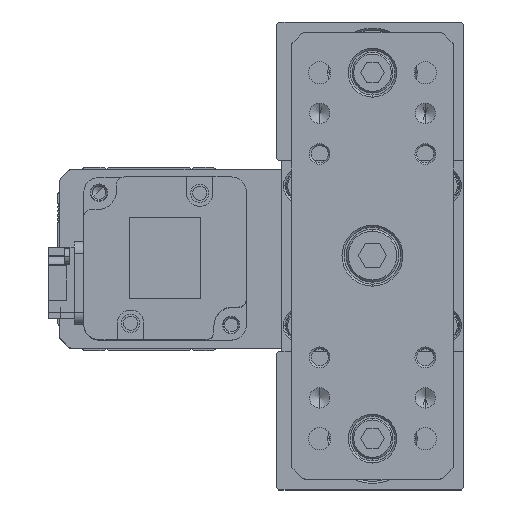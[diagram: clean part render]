
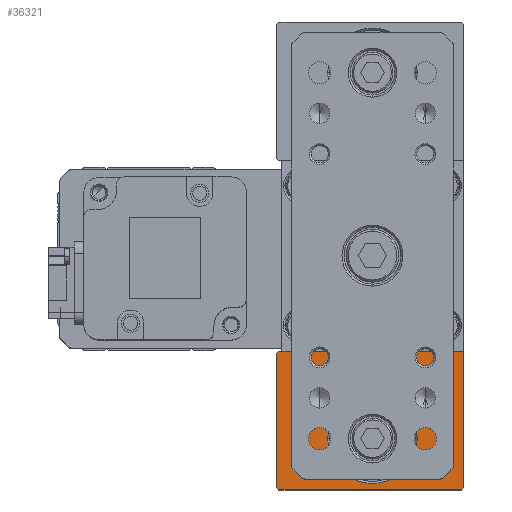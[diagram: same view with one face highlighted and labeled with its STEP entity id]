
A CAD part, top view. The second image highlights one B-rep face of the part: STEP entity #36321.
In plain terms, the highlighted planar face has unit normal (0, 0, 1).
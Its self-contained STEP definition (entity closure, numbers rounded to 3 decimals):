
#1166 = VERTEX_POINT ( 'NONE', #19638 ) ;
#1481 = AXIS2_PLACEMENT_3D ( 'NONE', #34870, #23227, #5586 ) ;
#1750 = EDGE_LOOP ( 'NONE', ( #36621, #31381, #17519, #20660, #35005, #9248, #6998 ) ) ;
#1785 = VERTEX_POINT ( 'NONE', #7949 ) ;
#2385 = VECTOR ( 'NONE', #30105, 1000. ) ;
#2433 = DIRECTION ( 'NONE',  ( 0.707, 0.707, 0. ) ) ;
#2480 = PLANE ( 'NONE',  #1481 ) ;
#2524 = VERTEX_POINT ( 'NONE', #29219 ) ;
#2880 = DIRECTION ( 'NONE',  ( 0., 1., 0. ) ) ;
#3100 = CARTESIAN_POINT ( 'NONE',  ( 22.5, -57.5, 411. ) ) ;
#3301 = CIRCLE ( 'NONE', #5340, 11. ) ;
#3319 = DIRECTION ( 'NONE',  ( 0., 1., 0. ) ) ;
#3616 = ORIENTED_EDGE ( 'NONE', *, *, #11322, .T. ) ;
#4766 = EDGE_CURVE ( 'NONE', #11357, #17238, #32651, .T. ) ;
#5157 = AXIS2_PLACEMENT_3D ( 'NONE', #31891, #14288, #34806 ) ;
#5262 = VECTOR ( 'NONE', #3319, 1000. ) ;
#5340 = AXIS2_PLACEMENT_3D ( 'NONE', #31633, #14002, #34544 ) ;
#5586 = DIRECTION ( 'NONE',  ( -1., 0., 0. ) ) ;
#6154 = CARTESIAN_POINT ( 'NONE',  ( -23.5, -57.5, 411. ) ) ;
#6698 = CARTESIAN_POINT ( 'NONE',  ( 22.5, -23.5, 411. ) ) ;
#6998 = ORIENTED_EDGE ( 'NONE', *, *, #28527, .T. ) ;
#7546 = LINE ( 'NONE', #3100, #36965 ) ;
#7823 = VERTEX_POINT ( 'NONE', #25212 ) ;
#7949 = CARTESIAN_POINT ( 'NONE',  ( -23., -23.5, 411. ) ) ;
#8772 = EDGE_CURVE ( 'NONE', #7823, #23320, #3301, .T. ) ;
#9248 = ORIENTED_EDGE ( 'NONE', *, *, #37035, .F. ) ;
#11080 = CARTESIAN_POINT ( 'NONE',  ( 22.5, -57., 411. ) ) ;
#11090 = VECTOR ( 'NONE', #2880, 1000. ) ;
#11211 = CARTESIAN_POINT ( 'NONE',  ( 22., -57.5, 411. ) ) ;
#11322 = EDGE_CURVE ( 'NONE', #23320, #7823, #23920, .T. ) ;
#11357 = VERTEX_POINT ( 'NONE', #23169 ) ;
#11555 = CARTESIAN_POINT ( 'NONE',  ( -23., -57.5, 411. ) ) ;
#13068 = LINE ( 'NONE', #6154, #5262 ) ;
#14002 = DIRECTION ( 'NONE',  ( 0., 0., -1. ) ) ;
#14288 = DIRECTION ( 'NONE',  ( 0., 0., -1. ) ) ;
#14533 = FACE_OUTER_BOUND ( 'NONE', #1750, .T. ) ;
#15315 = EDGE_CURVE ( 'NONE', #1785, #17658, #24967, .T. ) ;
#15398 = EDGE_LOOP ( 'NONE', ( #29269, #3616 ) ) ;
#17238 = VERTEX_POINT ( 'NONE', #11080 ) ;
#17519 = ORIENTED_EDGE ( 'NONE', *, *, #19869, .T. ) ;
#17658 = VERTEX_POINT ( 'NONE', #29475 ) ;
#18612 = LINE ( 'NONE', #6698, #26390 ) ;
#19148 = VECTOR ( 'NONE', #29158, 1000. ) ;
#19638 = CARTESIAN_POINT ( 'NONE',  ( -23.5, -57., 411. ) ) ;
#19869 = EDGE_CURVE ( 'NONE', #17238, #29315, #33591, .T. ) ;
#20584 = CARTESIAN_POINT ( 'NONE',  ( 22.5, -57.5, 411. ) ) ;
#20660 = ORIENTED_EDGE ( 'NONE', *, *, #29218, .T. ) ;
#21780 = CARTESIAN_POINT ( 'NONE',  ( 22.5, -23.5, 411. ) ) ;
#22374 = FACE_BOUND ( 'NONE', #15398, .T. ) ;
#23169 = CARTESIAN_POINT ( 'NONE',  ( 22., -57.5, 411. ) ) ;
#23227 = DIRECTION ( 'NONE',  ( 0., 0., -1. ) ) ;
#23320 = VERTEX_POINT ( 'NONE', #32448 ) ;
#23709 = DIRECTION ( 'NONE',  ( -1., 0., 0. ) ) ;
#23920 = CIRCLE ( 'NONE', #5157, 11. ) ;
#24352 = DIRECTION ( 'NONE',  ( -1., 0., 0. ) ) ;
#24864 = VECTOR ( 'NONE', #2433, 1000. ) ;
#24967 = LINE ( 'NONE', #27162, #2385 ) ;
#25212 = CARTESIAN_POINT ( 'NONE',  ( 11., -45., 411. ) ) ;
#26390 = VECTOR ( 'NONE', #24352, 1000. ) ;
#27162 = CARTESIAN_POINT ( 'NONE',  ( -23.5, -24., 411. ) ) ;
#28527 = EDGE_CURVE ( 'NONE', #1166, #2524, #35614, .T. ) ;
#29115 = EDGE_CURVE ( 'NONE', #11357, #2524, #7546, .T. ) ;
#29158 = DIRECTION ( 'NONE',  ( 0.707, -0.707, 0. ) ) ;
#29218 = EDGE_CURVE ( 'NONE', #29315, #1785, #18612, .T. ) ;
#29219 = CARTESIAN_POINT ( 'NONE',  ( -23., -57.5, 411. ) ) ;
#29269 = ORIENTED_EDGE ( 'NONE', *, *, #8772, .T. ) ;
#29315 = VERTEX_POINT ( 'NONE', #21780 ) ;
#29475 = CARTESIAN_POINT ( 'NONE',  ( -23.5, -24., 411. ) ) ;
#30105 = DIRECTION ( 'NONE',  ( -0.707, -0.707, 0. ) ) ;
#31381 = ORIENTED_EDGE ( 'NONE', *, *, #4766, .T. ) ;
#31633 = CARTESIAN_POINT ( 'NONE',  ( 0., -45., 411. ) ) ;
#31891 = CARTESIAN_POINT ( 'NONE',  ( 0., -45., 411. ) ) ;
#32448 = CARTESIAN_POINT ( 'NONE',  ( -11., -45., 411. ) ) ;
#32651 = LINE ( 'NONE', #11211, #24864 ) ;
#33591 = LINE ( 'NONE', #20584, #11090 ) ;
#34544 = DIRECTION ( 'NONE',  ( -1., 0., 0. ) ) ;
#34806 = DIRECTION ( 'NONE',  ( -1., 0., 0. ) ) ;
#34870 = CARTESIAN_POINT ( 'NONE',  ( 22.5, -57.5, 411. ) ) ;
#35005 = ORIENTED_EDGE ( 'NONE', *, *, #15315, .T. ) ;
#35614 = LINE ( 'NONE', #11555, #19148 ) ;
#36321 = ADVANCED_FACE ( 'NONE', ( #22374, #14533 ), #2480, .F. ) ;
#36621 = ORIENTED_EDGE ( 'NONE', *, *, #29115, .F. ) ;
#36965 = VECTOR ( 'NONE', #23709, 1000. ) ;
#37035 = EDGE_CURVE ( 'NONE', #1166, #17658, #13068, .T. ) ;
